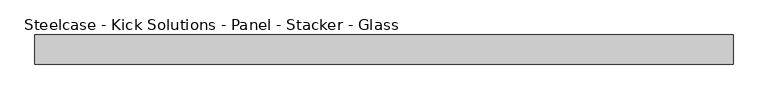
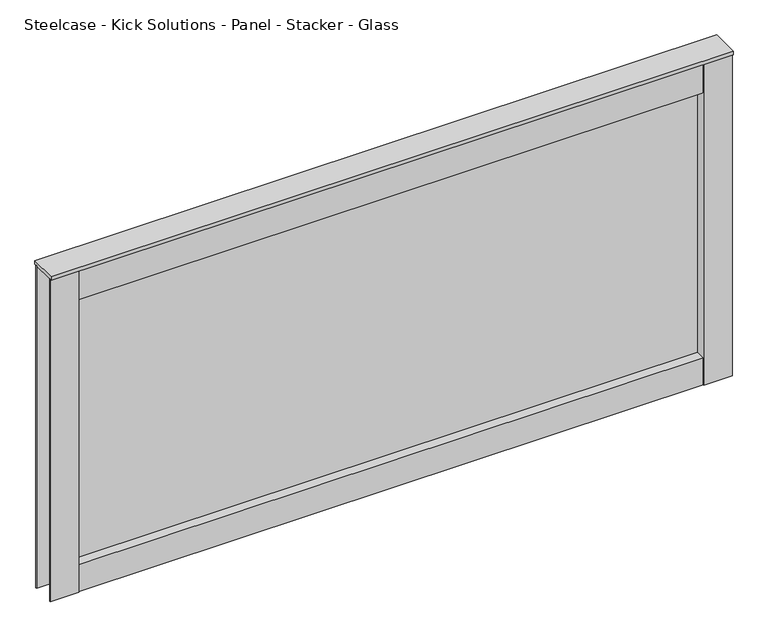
"""IFC4 building model written with IfcOpenShell, lengths in millimetres: furniture geometry, Steelcase - Kick Solutions - Panel - Stacker - Glass : 24H x 48W."""

from ifc_helpers import new_model, si_unit, frame, origin, place, context, project, spatial, polyline, outline, extrude, source, transform, mapped, element, save


def steelcase_kick_solutions_panel_stacker_glass_99b5f180(model_context):
    return source(origin(), model_context, "Body", "SweptSolid", [
        extrude(outline(polyline([(1168.4006661, -5.08), (1168.4006661, -45.7200015), (50.8006646, -45.7200015), (50.8006646, -5.08), (1168.4006661, -5.08)])), frame((0.0, 0.0, 1066.8), z_axis=(0.0, 0.0, 1.0), x_axis=(1.0, 0.0, 0.0)), (0.0, 0.0, 1.0), 50.6830951),
        extrude(outline(polyline([(1168.4006661, -5.08), (1168.4006661, -45.7200015), (50.8006646, -45.7200015), (50.8006646, -5.08), (1168.4006661, -5.08)])), frame((0.0, 0.0, 1619.25), z_axis=(0.0, 0.0, 1.0), x_axis=(1.0, 0.0, 0.0)), (0.0, 0.0, 1.0), 57.15),
        extrude(outline(polyline([(50.8006646, -3.1743148), (50.8006646, -47.6243142), (0.0, -47.6243142), (0.0, -45.7200015), (47.7526646, -45.7200015), (47.7526646, -5.08), (0.0, -5.08), (0.0, -3.1743148), (50.8006646, -3.1743148)])), frame((0.0, 0.0, 1066.8), z_axis=(0.0, 0.0, 1.0), x_axis=(1.0, 0.0, 0.0)), (0.0, 0.0, 1.0), 609.6),
        extrude(outline(polyline([(1168.4006661, -3.1743148), (1219.2, -3.1743148), (1219.2, -5.08), (1171.4486661, -5.08), (1171.4486661, -45.7200015), (1219.2, -45.7200015), (1219.2, -47.6243142), (1168.4006661, -47.6243142), (1168.4006661, -3.1743148)])), frame((0.0, 0.0, 1066.8), z_axis=(0.0, 0.0, 1.0), x_axis=(1.0, 0.0, 0.0)), (0.0, 0.0, 1.0), 609.6),
        extrude(outline(polyline([(1168.4006661, -28.422537), (50.8006646, -28.422537), (50.8006646, -25.4), (1168.4006661, -25.4), (1168.4006661, -28.422537)])), frame((0.0, 0.0, 1117.4830951), z_axis=(0.0, 0.0, 1.0), x_axis=(1.0, 0.0, 0.0)), (0.0, 0.0, 1.0), 501.7669049),
        extrude(outline(polyline([(1219.2, 0.0), (1219.2, -50.8000015), (0.0, -50.8000015), (0.0, 0.0), (1219.2, 0.0)])), frame((0.0, 0.0, 1676.4), z_axis=(0.0, 0.0, 1.0), x_axis=(1.0, 0.0, 0.0)), (0.0, 0.0, 1.0), 6.35),
    ])


if __name__ == "__main__":
    model = new_model("IFC4")
    model_context = context("Model", 3, world=origin())
    ifc_project = project(units=[si_unit("LENGTHUNIT", "METRE", prefix="MILLI")], contexts=[model_context])
    site = spatial("IfcSite", under=ifc_project)
    building = spatial("IfcBuilding", under=site)
    placement = place(None, origin())
    steelcase_kick_solutions_panel_stacker_glass_shape = steelcase_kick_solutions_panel_stacker_glass_99b5f180(model_context)
    element("IfcFurniture", 1, ObjectType="Steelcase - Kick Solutions - Panel - Stacker - Glass : 24H x 48W", at=placement, inside=building, context=model_context, shape_type="MappedRepresentation", body=[
        mapped(steelcase_kick_solutions_panel_stacker_glass_shape, transform((0.0, 0.0, 0.0), x_axis=(1.0, 0.0, 0.0), y_axis=(0.0, 1.0, 0.0), z_axis=(0.0, 0.0, 1.0))),
    ])
    save(model, "model.ifc")
